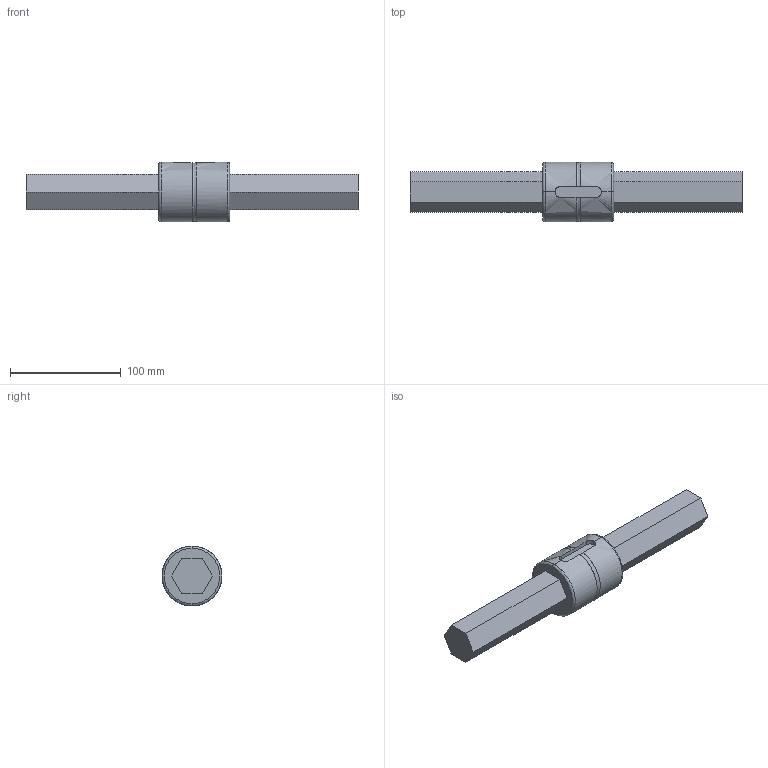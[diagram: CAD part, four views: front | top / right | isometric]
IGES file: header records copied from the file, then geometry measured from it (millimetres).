
Global section: file name: No Iges File Name specified; native system: AutoDesk Inventor R10; preprocessor: AutoDesk Inventor Iges Exporter R10; author: No Author specified; organization: No Organization specified; date: 20101224.163803; units: millimetre
Bounding box: 300 x 54 x 54 mm (x, y, z)
Surface area: 55895.8 mm2 (no closed solid volume)
Topology: 0 solids, 0 shells, 40 faces, 248 edges, 248 vertices
Faces by surface type: bspline 40
